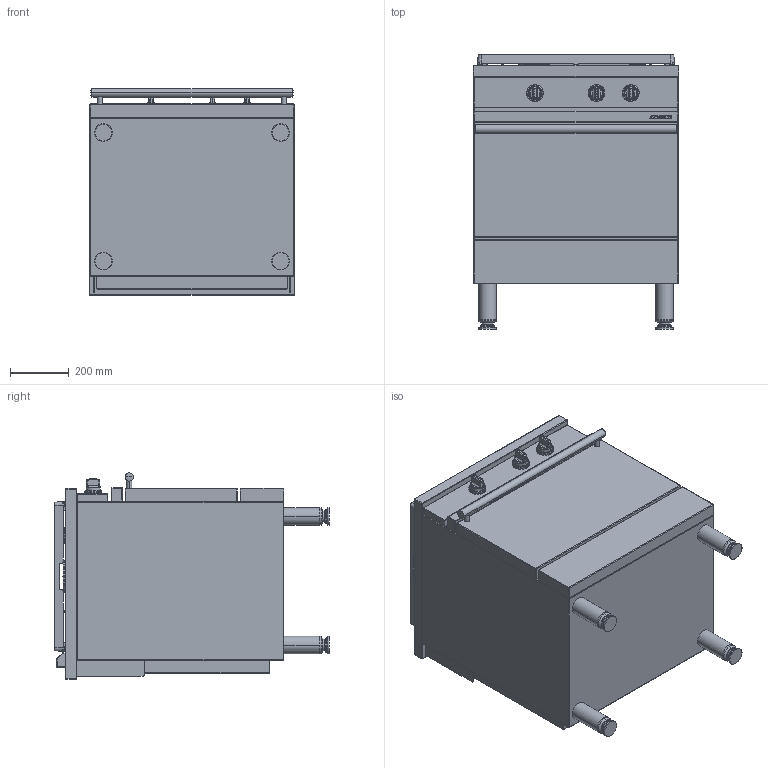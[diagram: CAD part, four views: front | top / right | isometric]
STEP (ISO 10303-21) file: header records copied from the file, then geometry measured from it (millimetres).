
FILE_DESCRIPTION((''),'2;1');
FILE_NAME('CG721GAGCF_EXPORT_STEP_ASM','2017-11-22T',('r.avril'),(''),'PRO/ENGINEER BY PARAMETRIC TECHNOLOGY CORPORATION, 2014200','PRO/ENGINEER BY PARAMETRIC TECHNOLOGY CORPORATION, 2014200','');
FILE_SCHEMA(('AP203_CONFIGURATION_CONTROLLED_3D_DESIGN_OF_MECHANICAL_PARTS_AND_ASSEMBLIES_MIM_LF { 1 0 10303 403 2 1 2 }'));
Products named in the file (11): FOURNEAUX_AMB_700_EXPORT_STEP; TABLE_700_CLASSIQUE_4F; 5KW; 1_5KW; 65062009; 65149005; 65062012; 90000894_ASM; TABLE_700_GCF_ASM; MANETTE_AMB_EXPORT_STEP; CG721GAGCF_EXPORT_STEP_ASM
Assembly tree (17 placements, depth 4):
  CG721GAGCF_EXPORT_STEP_ASM
    FOURNEAUX_AMB_700_EXPORT_STEP
    TABLE_700_GCF_ASM
      TABLE_700_CLASSIQUE_4F
      5KW
      1_5KW
      90000894_ASM
        65062009
        65149005  x6
        65062012
    MANETTE_AMB_EXPORT_STEP  x3
Bounding box: 700 x 936 x 703 mm (x, y, z)
Volume: 320580411.5 mm3; surface area: 6224776.4 mm2
Topology: 28 solids, 46 shells, 2089 faces, 5754 edges, 4044 vertices
Faces by surface type: plane 972, cylinder 588, bspline 202, sphere 130, torus 122, cone 75
Entity records: 90136 total; most frequent: CARTESIAN_POINT 22339, ORIENTED_EDGE 9614, DIRECTION 9390, EDGE_CURVE 5032, PRESENTATION_STYLE_ASSIGNMENT 4824, STYLED_ITEM 4824, CURVE_STYLE 3985, VECTOR 3259
